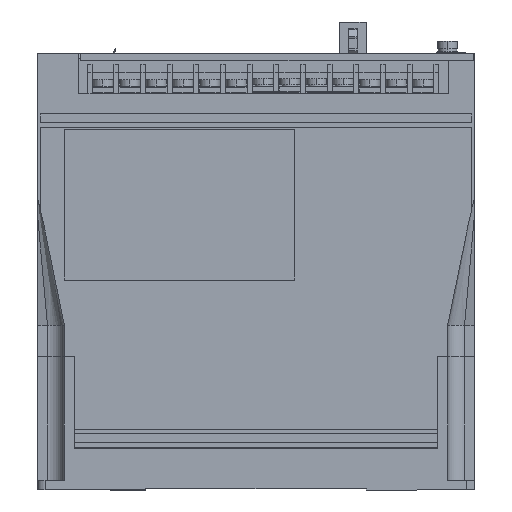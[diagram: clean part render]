
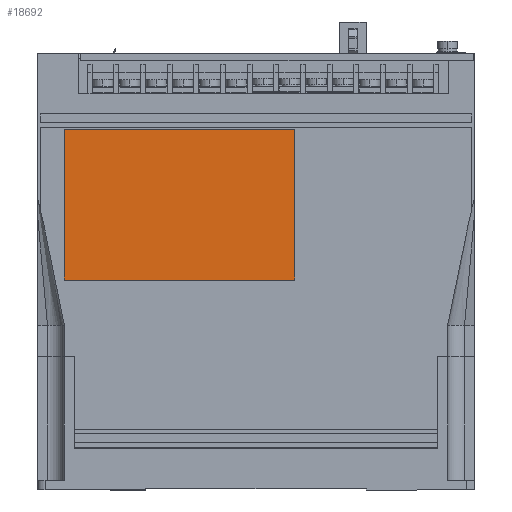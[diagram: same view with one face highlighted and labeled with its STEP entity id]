
A CAD part, left-side view. The second image highlights one B-rep face of the part: STEP entity #18692.
In plain terms, the highlighted planar face has unit normal (-1, 0, 0).
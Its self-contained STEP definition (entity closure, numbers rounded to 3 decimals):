
#18635 = VERTEX_POINT ( 'NONE', #36085 ) ;
#18690 = EDGE_CURVE ( 'NONE', #18713, #18708, #36167, .T. ) ;
#18692 = ADVANCED_FACE ( 'NONE', ( #36163 ), #36162, .T. ) ;
#18693 = EDGE_LOOP ( 'NONE', ( #18694, #18695, #18748, #18749 ) ) ;
#18694 = ORIENTED_EDGE ( 'NONE', *, *, #18715, .T. ) ;
#18695 = ORIENTED_EDGE ( 'NONE', *, *, #18690, .T. ) ;
#18698 = EDGE_CURVE ( 'NONE', #18699, #18635, #36157, .T. ) ;
#18699 = VERTEX_POINT ( 'NONE', #36153 ) ;
#18707 = EDGE_CURVE ( 'NONE', #18708, #18699, #36141, .T. ) ;
#18708 = VERTEX_POINT ( 'NONE', #36137 ) ;
#18713 = VERTEX_POINT ( 'NONE', #36197 ) ;
#18715 = EDGE_CURVE ( 'NONE', #18635, #18713, #36194, .T. ) ;
#18748 = ORIENTED_EDGE ( 'NONE', *, *, #18707, .T. ) ;
#18749 = ORIENTED_EDGE ( 'NONE', *, *, #18698, .T. ) ;
#36085 = CARTESIAN_POINT ( 'NONE',  ( -4.65, -6., 86.6 ) ) ;
#36137 = CARTESIAN_POINT ( 'NONE',  ( -4.65, -101., 148.6 ) ) ;
#36138 = DIRECTION ( 'NONE',  ( 0., 1., 0. ) ) ;
#36139 = VECTOR ( 'NONE', #36138, 1000. ) ;
#36140 = CARTESIAN_POINT ( 'NONE',  ( -4.65, -6., 148.6 ) ) ;
#36141 = LINE ( 'NONE', #36140, #36139 ) ;
#36153 = CARTESIAN_POINT ( 'NONE',  ( -4.65, -6., 148.6 ) ) ;
#36154 = DIRECTION ( 'NONE',  ( 0., 0., -1. ) ) ;
#36155 = VECTOR ( 'NONE', #36154, 1000. ) ;
#36156 = CARTESIAN_POINT ( 'NONE',  ( -4.65, -6., 86.6 ) ) ;
#36157 = LINE ( 'NONE', #36156, #36155 ) ;
#36158 = DIRECTION ( 'NONE',  ( 0., 0., 1. ) ) ;
#36159 = DIRECTION ( 'NONE',  ( -1., 0., 0. ) ) ;
#36160 = CARTESIAN_POINT ( 'NONE',  ( -4.65, -101., 86.6 ) ) ;
#36161 = AXIS2_PLACEMENT_3D ( 'NONE', #36160, #36159, #36158 ) ;
#36162 = PLANE ( 'NONE',  #36161 ) ;
#36163 = FACE_OUTER_BOUND ( 'NONE', #18693, .T. ) ;
#36164 = DIRECTION ( 'NONE',  ( 0., 0., 1. ) ) ;
#36165 = VECTOR ( 'NONE', #36164, 1000. ) ;
#36166 = CARTESIAN_POINT ( 'NONE',  ( -4.65, -101., 86.6 ) ) ;
#36167 = LINE ( 'NONE', #36166, #36165 ) ;
#36191 = DIRECTION ( 'NONE',  ( 0., -1., 0. ) ) ;
#36192 = VECTOR ( 'NONE', #36191, 1000. ) ;
#36193 = CARTESIAN_POINT ( 'NONE',  ( -4.65, -6., 86.6 ) ) ;
#36194 = LINE ( 'NONE', #36193, #36192 ) ;
#36197 = CARTESIAN_POINT ( 'NONE',  ( -4.65, -101., 86.6 ) ) ;
